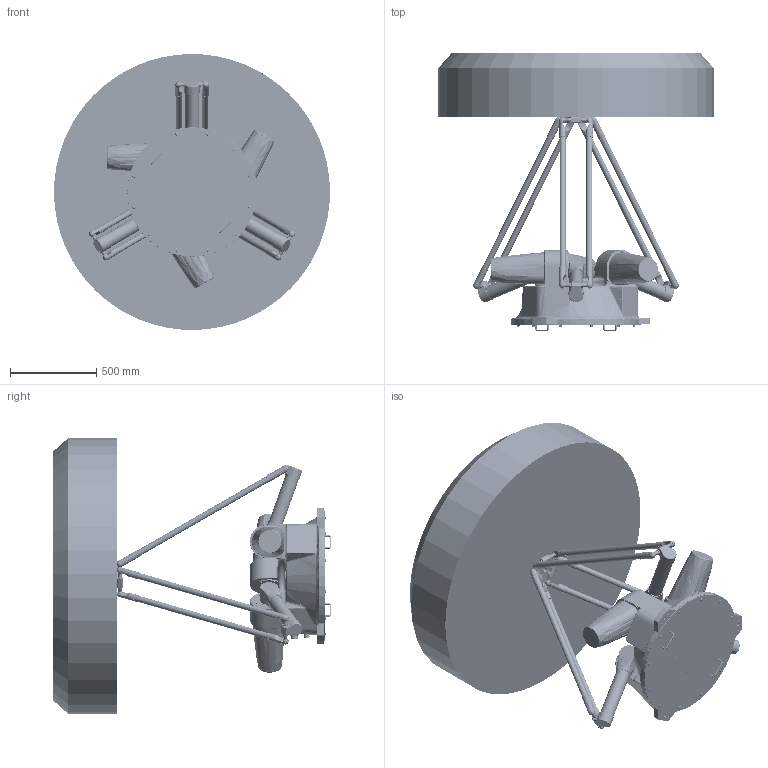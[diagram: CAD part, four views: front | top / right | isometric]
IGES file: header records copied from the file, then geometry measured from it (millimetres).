
Start section: SolidWorks IGES file using analytic representation for surfaces
Global section: file name: X:\03研发部\50-Robot\20-Delta\240-AP25X\10-Design\02-Mechanical\02-FDR 阶段资料\04-对外发布模型\AP25X-1600-1543外发模型\AP25X-1600-1543-T0-V1.0.0.IGS; native system: SolidWorks 2017; preprocessor: SolidWorks 2017; author: 1023; date: 240516.162437; units: millimetre
Bounding box: 1599.81 x 1613 x 1599.81 mm (x, y, z)
Surface area: 10196345.7 mm2 (no closed solid volume)
Topology: 0 solids, 0 shells, 6654 faces, 74263 edges, 73900 vertices
Faces by surface type: revolution 3464, bspline 3190
